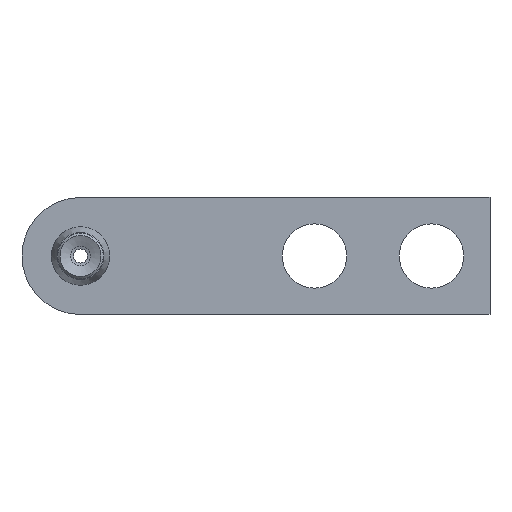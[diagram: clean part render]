
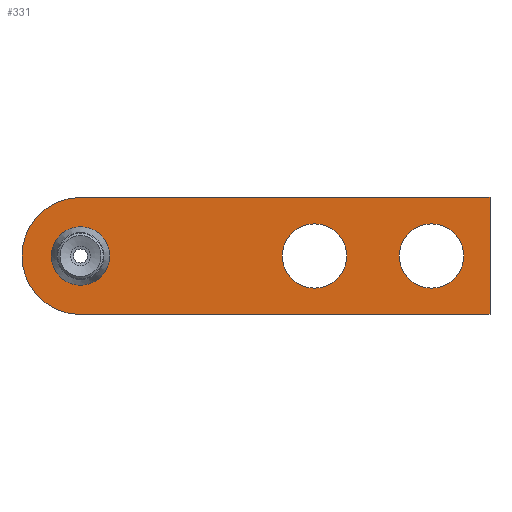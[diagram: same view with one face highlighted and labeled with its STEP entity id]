
A CAD part, front view. The second image highlights one B-rep face of the part: STEP entity #331.
In plain terms, the highlighted planar face has unit normal (0, -1, 0).
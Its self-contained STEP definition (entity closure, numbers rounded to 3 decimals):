
#331=ADVANCED_FACE('',(#405,#406,#407,#408),#409,.F.);
#405=FACE_OUTER_BOUND('',#583,.T.);
#406=FACE_BOUND('',#584,.T.);
#407=FACE_BOUND('',#585,.T.);
#408=FACE_BOUND('',#586,.T.);
#409=PLANE('',#587);
#583=EDGE_LOOP('',(#808,#809,#810,#811));
#584=EDGE_LOOP('',(#812));
#585=EDGE_LOOP('',(#813));
#586=EDGE_LOOP('',(#814));
#587=AXIS2_PLACEMENT_3D('',#815,#816,#817);
#808=ORIENTED_EDGE('',*,*,#1157,.F.);
#809=ORIENTED_EDGE('',*,*,#1154,.F.);
#810=ORIENTED_EDGE('',*,*,#1158,.F.);
#811=ORIENTED_EDGE('',*,*,#1159,.F.);
#812=ORIENTED_EDGE('',*,*,#1160,.T.);
#813=ORIENTED_EDGE('',*,*,#1153,.T.);
#814=ORIENTED_EDGE('',*,*,#1152,.T.);
#815=CARTESIAN_POINT('',(0.,0.0,0.0));
#816=DIRECTION('',(-0.0,1.0,0.0));
#817=DIRECTION('',(1.0,0.0,0.0));
#1152=EDGE_CURVE('',#1248,#1248,#1249,.T.);
#1153=EDGE_CURVE('',#1250,#1250,#1251,.T.);
#1154=EDGE_CURVE('',#1252,#1253,#1254,.T.);
#1157=EDGE_CURVE('',#1253,#1257,#1258,.T.);
#1158=EDGE_CURVE('',#1259,#1252,#1260,.T.);
#1159=EDGE_CURVE('',#1257,#1259,#1261,.T.);
#1160=EDGE_CURVE('',#1262,#1262,#1263,.T.);
#1248=VERTEX_POINT('',#1413);
#1249=CIRCLE('',#1414,2.5);
#1250=VERTEX_POINT('',#1415);
#1251=CIRCLE('',#1416,2.75);
#1252=VERTEX_POINT('',#1417);
#1253=VERTEX_POINT('',#1418);
#1254=LINE('',#1419,#1420);
#1257=VERTEX_POINT('',#1425);
#1258=LINE('',#1426,#1427);
#1259=VERTEX_POINT('',#1428);
#1260=LINE('',#1429,#1430);
#1261=CIRCLE('',#1431,5.0);
#1262=VERTEX_POINT('',#1432);
#1263=CIRCLE('',#1433,2.75);
#1413=CARTESIAN_POINT('',(2.5,0.0,0.0));
#1414=AXIS2_PLACEMENT_3D('',#1697,#1698,#1699);
#1415=CARTESIAN_POINT('',(22.75,0.0,0.0));
#1416=AXIS2_PLACEMENT_3D('',#1700,#1701,#1702);
#1417=CARTESIAN_POINT('',(35.0,0.0,5.0));
#1418=CARTESIAN_POINT('',(35.0,0.0,-5.0));
#1419=CARTESIAN_POINT('',(35.0,0.0,5.0));
#1420=VECTOR('',#1703,1.0);
#1425=CARTESIAN_POINT('',(0.,0.0,-5.0));
#1426=CARTESIAN_POINT('',(35.0,0.0,-5.0));
#1427=VECTOR('',#1706,1.0);
#1428=CARTESIAN_POINT('',(0.,0.0,5.0));
#1429=CARTESIAN_POINT('',(0.,0.0,5.0));
#1430=VECTOR('',#1707,1.0);
#1431=AXIS2_PLACEMENT_3D('',#1708,#1709,#1710);
#1432=CARTESIAN_POINT('',(32.75,0.0,0.0));
#1433=AXIS2_PLACEMENT_3D('',#1711,#1712,#1713);
#1697=CARTESIAN_POINT('',(0.,0.0,0.0));
#1698=DIRECTION('',(-0.0,1.0,0.0));
#1699=DIRECTION('',(1.0,0.0,0.0));
#1700=CARTESIAN_POINT('',(20.0,0.0,0.0));
#1701=DIRECTION('',(-0.0,1.0,0.0));
#1702=DIRECTION('',(1.0,0.0,0.0));
#1703=DIRECTION('',(0.0,0.0,-1.0));
#1706=DIRECTION('',(-1.0,0.0,0.0));
#1707=DIRECTION('',(1.0,0.0,0.0));
#1708=CARTESIAN_POINT('',(0.,0.0,0.0));
#1709=DIRECTION('',(-0.0,1.0,0.0));
#1710=DIRECTION('',(1.0,0.0,0.0));
#1711=CARTESIAN_POINT('',(30.0,0.0,0.0));
#1712=DIRECTION('',(-0.0,1.0,0.0));
#1713=DIRECTION('',(1.0,0.0,0.0));
